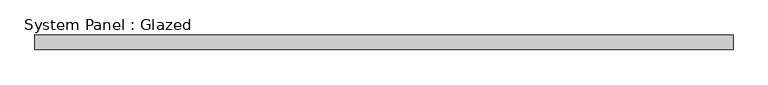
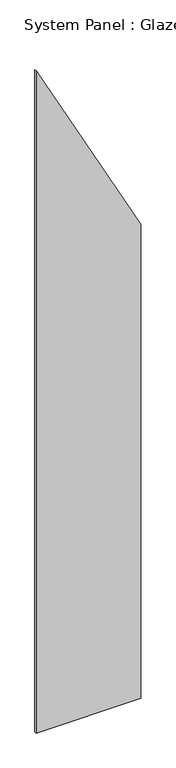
"""IFC4 building model written with IfcOpenShell, lengths in millimetres: plate geometry, System Panel : Glazed."""

import ifcopenshell
import ifcopenshell.guid

model = None  # the IFC model being written
_history = None  # IfcOwnerHistory: only IFC2X3 demands one
_inside = {}  # id of a spatial element -> (the spatial element, [elements in it])
_under = {}  # id of a project, library or spatial element -> (it, [spatial elements below it])
_declared = {}  # id of a project -> (the project, [libraries it declares])
_typed = {}  # id of a type object -> (the type object, [elements of that type])
_made_of = {}  # id of a material, layer set ... -> (it, [elements and type objects made of it])


def new_model(schema):
    """Start an empty IFC model of exactly this schema.

    Asked for "IFC4X3", IfcOpenShell would pick the latest addendum, in which some entities
    have other attributes; the version numbers below select the first issue.
    IFC2X3 requires an IfcOwnerHistory on every rooted entity: one is made here for all.
    """
    global model, _history
    if schema == "IFC4X3":
        model = ifcopenshell.file(schema_version=(4, 3, 0, 0))
    else:
        model = ifcopenshell.file(schema=schema)
    _inside.clear()
    _under.clear()
    _declared.clear()
    _typed.clear()
    _made_of.clear()
    _history = None
    if model.schema == "IFC2X3":
        org = make("IfcOrganization", Name="unknown")
        user = make(
            "IfcPersonAndOrganization",
            ThePerson=make("IfcPerson", FamilyName="unknown"),
            TheOrganization=org,
        )
        app = make(
            "IfcApplication",
            ApplicationDeveloper=org,
            Version="unknown",
            ApplicationFullName="unknown",
            ApplicationIdentifier="unknown",
        )
        _history = make(
            "IfcOwnerHistory",
            OwningUser=user,
            OwningApplication=app,
            ChangeAction="ADDED",
            CreationDate=0,
        )
    return model


def make(cls, **values):
    """One entity of the class cls with the attributes given. An attribute that is None is left unset."""
    return model.create_entity(
        cls, **{name: value for name, value in values.items() if value is not None}
    )


def rooted(cls, **values):
    """An entity with a GlobalId (a new one), such as an element, a storey or a relation."""
    return make(cls, GlobalId=ifcopenshell.guid.new(), OwnerHistory=_history, **values)


def si_unit(unit_type, name, prefix=None):
    """IfcSIUnit, for example si_unit("LENGTHUNIT", "METRE", prefix="MILLI")."""
    return make("IfcSIUnit", UnitType=unit_type, Prefix=prefix, Name=name)


def assignment(units):
    """IfcUnitAssignment: the units of a project."""
    return None if units is None else make("IfcUnitAssignment", Units=units)


def point(xyz):
    """IfcCartesianPoint."""
    return None if xyz is None else make("IfcCartesianPoint", Coordinates=xyz)


def direction(xyz):
    """IfcDirection."""
    return None if xyz is None else make("IfcDirection", DirectionRatios=xyz)


def frame(location, z_axis=None, x_axis=None):
    """IfcAxis2Placement3D, a coordinate frame: its origin and axes. An axis left out is left unset."""
    return make(
        "IfcAxis2Placement3D",
        Location=point(location),
        Axis=direction(z_axis),
        RefDirection=direction(x_axis),
    )


def origin():
    """The frame at (0, 0, 0) with its axes left unset."""
    return frame((0.0, 0.0, 0.0))


def place(relative_to, where):
    """IfcLocalPlacement: puts the frame where relative to a parent placement (None: the world)."""
    return make(
        "IfcLocalPlacement", PlacementRelTo=relative_to, RelativePlacement=where
    )


def context(
    kind, dimensions, precision=None, world=None, true_north=None, identifier=None
):
    """IfcGeometricRepresentationContext, for example the 3D "Model" context."""
    return make(
        "IfcGeometricRepresentationContext",
        ContextIdentifier=identifier,
        ContextType=kind,
        CoordinateSpaceDimension=dimensions,
        Precision=precision,
        WorldCoordinateSystem=world,
        TrueNorth=true_north,
    )


def project(units=None, contexts=None):
    """IfcProject with its units and contexts."""
    return rooted(
        "IfcProject",
        Name="project",
        RepresentationContexts=contexts,
        UnitsInContext=assignment(units),
    )


def spatial(cls, under=None, at=None, **own):
    """A site, building, storey or space (cls), placed at a placement, below another one or the project."""
    s = rooted(cls, ObjectPlacement=at, **own)
    if under is not None:
        _under.setdefault(under.id(), (under, []))[1].append(s)
    return s


def polyline(points):
    """IfcPolyline through the points."""
    return make("IfcPolyline", Points=[point(p) for p in points])


def outline(outer, holes=None, kind="AREA"):
    """IfcArbitraryClosedProfileDef: a profile drawn as a closed curve; with holes, ...WithVoids."""
    if holes is None:
        return make("IfcArbitraryClosedProfileDef", ProfileType=kind, OuterCurve=outer)
    return make(
        "IfcArbitraryProfileDefWithVoids",
        ProfileType=kind,
        OuterCurve=outer,
        InnerCurves=holes,
    )


def extrude(swept, where, along, depth):
    """IfcExtrudedAreaSolid: the profile swept, set in the frame where, extruded along a direction by depth."""
    return make(
        "IfcExtrudedAreaSolid",
        SweptArea=swept,
        Position=where,
        ExtrudedDirection=direction(along),
        Depth=depth,
    )


def shape(context_of_items, identifier, shape_type, items):
    """IfcShapeRepresentation: the items that make up one representation, for example the "Body"."""
    return make(
        "IfcShapeRepresentation",
        ContextOfItems=context_of_items,
        RepresentationIdentifier=identifier,
        RepresentationType=shape_type,
        Items=items,
    )


def source(mapping_origin, context_of_items, identifier, shape_type, items):
    """IfcRepresentationMap: a shape defined once, which mapped items show again and again."""
    return make(
        "IfcRepresentationMap",
        MappingOrigin=mapping_origin,
        MappedRepresentation=shape(context_of_items, identifier, shape_type, items),
    )


def transform(
    local_origin,
    x_axis=None,
    y_axis=None,
    z_axis=None,
    scale=None,
    scale2=None,
    scale3=None,
    uniform=True,
):
    """IfcCartesianTransformationOperator3D, or its non-uniform kind. x_axis, y_axis, z_axis: its Axis1, 2, 3."""
    if uniform:
        return make(
            "IfcCartesianTransformationOperator3D",
            Axis1=direction(x_axis),
            Axis2=direction(y_axis),
            LocalOrigin=point(local_origin),
            Scale=scale,
            Axis3=direction(z_axis),
        )
    return make(
        "IfcCartesianTransformationOperator3DnonUniform",
        Axis1=direction(x_axis),
        Axis2=direction(y_axis),
        LocalOrigin=point(local_origin),
        Scale=scale,
        Axis3=direction(z_axis),
        Scale2=scale2,
        Scale3=scale3,
    )


def mapped(mapping_source, mapping_target):
    """IfcMappedItem: shows the shape of a source again, moved by a transform."""
    return make(
        "IfcMappedItem", MappingSource=mapping_source, MappingTarget=mapping_target
    )


def made_of(thing, what):
    """Note that an element or type object is made of a material, layer set ...; save() writes the relation."""
    if what is not None:
        _made_of.setdefault(what.id(), (what, []))[1].append(thing)
    return thing


def element(
    cls,
    number,
    at=None,
    inside=None,
    cuts=None,
    type_object=None,
    material=None,
    context=None,
    identifier="Body",
    shape_type=None,
    held_by="IfcProductDefinitionShape",
    body=None,
    shapes=None,
    **own,
):
    """One element of the class cls, such as IfcWall. Its Tag is "e" and its number.

    at: its placement. inside: the storey or other place that contains it. cuts: it is an
    opening in that element (IfcRelVoidsElement). A single representation is given by context,
    identifier, shape_type and body (its items); several are given by shapes. held_by: the class
    of the entity that holds the representations. save() writes the other relations.
    """
    e = rooted(cls, Tag="e%d" % number, ObjectPlacement=at, **own)
    if body is not None:
        shapes = [shape(context, identifier, shape_type, body)]
    if shapes is not None:
        e.Representation = make(held_by, Representations=shapes)
    if inside is not None:
        _inside.setdefault(inside.id(), (inside, []))[1].append(e)
    if cuts is not None:
        rooted(
            "IfcRelVoidsElement", RelatingBuildingElement=cuts, RelatedOpeningElement=e
        )
    if type_object is not None:
        _typed.setdefault(type_object.id(), (type_object, []))[1].append(e)
    return made_of(e, material)


def aggregate(whole, parts):
    """IfcRelAggregates: a whole, such as a stair, and the parts it consists of."""
    return rooted("IfcRelAggregates", RelatingObject=whole, RelatedObjects=parts)


def save(model, path):
    """Write the relations noted so far, then the file.

    IfcRelAggregates (storeys below a building ...), IfcRelContainedInSpatialStructure (elements
    in a storey), IfcRelDefinesByType, IfcRelAssociatesMaterial and IfcRelDeclares: one each for
    every whole, place, type object, material and project.
    """
    for whole, parts in _under.values():
        aggregate(whole, parts)
    for where, things in _inside.values():
        rooted(
            "IfcRelContainedInSpatialStructure",
            RelatedElements=things,
            RelatingStructure=where,
        )
    for kind, things in _typed.values():
        rooted("IfcRelDefinesByType", RelatedObjects=things, RelatingType=kind)
    for what, things in _made_of.values():
        rooted("IfcRelAssociatesMaterial", RelatedObjects=things, RelatingMaterial=what)
    for by, libraries in _declared.values():
        rooted("IfcRelDeclares", RelatingContext=by, RelatedDefinitions=libraries)
    model.write(path)


def system_panel_glazed_bd7d7e7b(model_context):
    return source(origin(), model_context, "Body", "SweptSolid", [
        extrude(outline(polyline([(0.0, -590.4881511), (0.0, 590.4881511), (5664.1017563, 590.4881511), (7907.0508782, -590.4881511), (0.0, -590.4881511)])), frame((0.0, -12.5, 0.0), z_axis=(0.0, 1.0, 0.0), x_axis=(0.0, 0.0, 1.0)), (0.0, 0.0, 1.0), 25.0),
    ])


if __name__ == "__main__":
    model = new_model("IFC4")
    model_context = context("Model", 3, world=origin())
    ifc_project = project(units=[si_unit("LENGTHUNIT", "METRE", prefix="MILLI")], contexts=[model_context])
    site = spatial("IfcSite", under=ifc_project)
    building = spatial("IfcBuilding", under=site)
    placement = place(None, origin())
    system_panel_glazed_shape = system_panel_glazed_bd7d7e7b(model_context)
    element("IfcPlate", 1, ObjectType="System Panel : Glazed", at=placement, inside=building, context=model_context, shape_type="MappedRepresentation", body=[
        mapped(system_panel_glazed_shape, transform((0.0, 0.0, 0.0), x_axis=(1.0, 0.0, 0.0), y_axis=(0.0, 1.0, 0.0), z_axis=(0.0, 0.0, 1.0))),
    ])
    save(model, "model.ifc")
